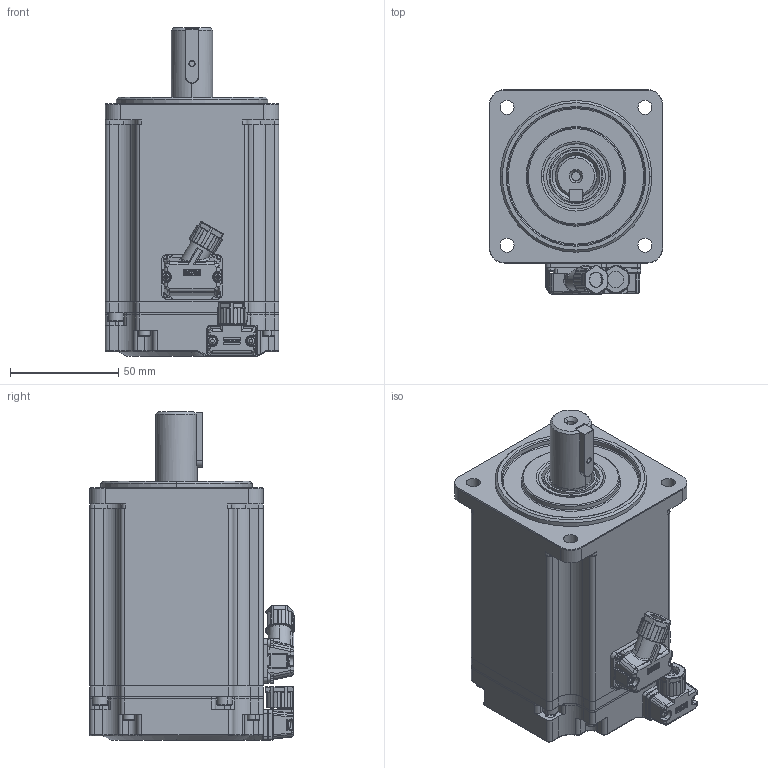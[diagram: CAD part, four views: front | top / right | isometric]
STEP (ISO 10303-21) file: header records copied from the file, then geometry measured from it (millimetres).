
FILE_DESCRIPTION (( 'STEP AP203' ), '1' );
FILE_NAME ('WB80ST-M03230脣匿-陔薊遴.STEP', '2024-10-23T01:45:35', ( 'lvbing' ), ( 'WG' ), 'SwSTEP 2.0', 'SolidWorks 2018', '' );
FILE_SCHEMA (( 'CONFIG_CONTROL_DESIGN' ));
Products named in the file (2): WB80ST-M03230脣匿-陔薊遴
Bounding box: 80 x 94.3 x 151.5 mm (x, y, z)
Surface area: 63770.8 mm2 (no closed solid volume)
Topology: 0 solids, 29 shells, 1065 faces, 4047 edges, 2889 vertices
Faces by surface type: cylinder 444, plane 372, torus 136, bspline 62, sphere 28, cone 23
Entity records: 46296 total; most frequent: CARTESIAN_POINT 13850, DIRECTION 6470, ORIENTED_EDGE 6284, EDGE_CURVE 4035, VERTEX_POINT 2889, AXIS2_PLACEMENT_3D 2345, VECTOR 1780, LINE 1780
